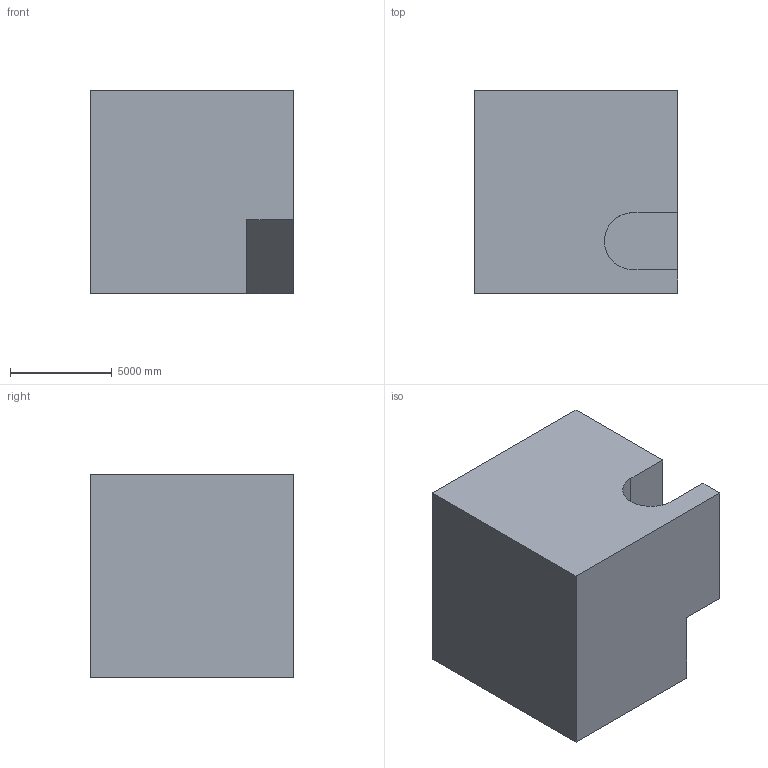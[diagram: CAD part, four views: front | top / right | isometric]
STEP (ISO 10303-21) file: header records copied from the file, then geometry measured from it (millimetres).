
FILE_DESCRIPTION (( 'STEP AP203' ), '1' );
FILE_NAME ('1234.STEP', '2022-08-18T13:18:59', ( 'user' ), ( '' ), 'SwSTEP 2.0', 'SolidWorks 2021', '' );
FILE_SCHEMA (( 'CONFIG_CONTROL_DESIGN' ));
Length unit declared in the file: centimetre
Products named in the file (1): 1234
Bounding box: 10000 x 10000 x 10000 mm (x, y, z)
Volume: 945162756551.6 mm3; surface area: 628937818.6 mm2
Topology: 1 solids, 1 shells, 15 faces, 36 edges, 24 vertices
Faces by surface type: plane 12, cylinder 3
Entity records: 513 total; most frequent: CARTESIAN_POINT 76, DIRECTION 74, ORIENTED_EDGE 72, EDGE_CURVE 36, VECTOR 30, LINE 30, VERTEX_POINT 24, AXIS2_PLACEMENT_3D 22
